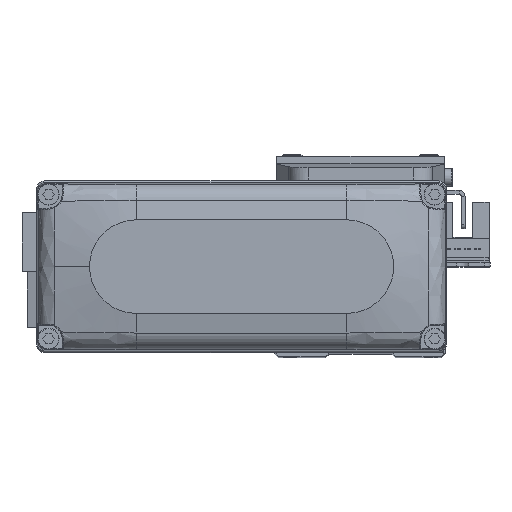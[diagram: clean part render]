
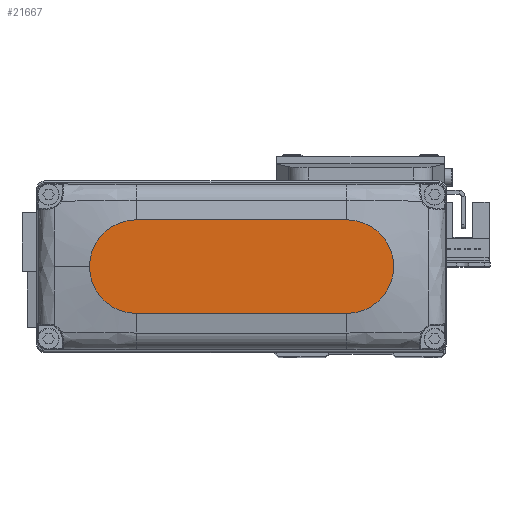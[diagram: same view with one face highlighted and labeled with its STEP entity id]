
A CAD part, top view. The second image highlights one B-rep face of the part: STEP entity #21667.
In plain terms, the highlighted planar face has unit normal (0, 0, 1).
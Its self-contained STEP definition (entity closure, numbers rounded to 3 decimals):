
#1772 = FACE_OUTER_BOUND ( 'NONE', #8573, .T. ) ;
#2860 = DIRECTION ( 'NONE',  ( 0., 0., 1. ) ) ;
#3759 = ORIENTED_EDGE ( 'NONE', *, *, #13889, .T. ) ;
#4431 = CARTESIAN_POINT ( 'NONE',  ( -27., -12., 25. ) ) ;
#4887 = CARTESIAN_POINT ( 'NONE',  ( 27., 0., 25. ) ) ;
#5955 = CIRCLE ( 'NONE', #28147, 12. ) ;
#7559 = DIRECTION ( 'NONE',  ( 1., 0., 0. ) ) ;
#8046 = VERTEX_POINT ( 'NONE', #11319 ) ;
#8188 = CARTESIAN_POINT ( 'NONE',  ( -27., 12., 25. ) ) ;
#8573 = EDGE_LOOP ( 'NONE', ( #33944, #19704, #32825, #3759, #14770 ) ) ;
#10918 = DIRECTION ( 'NONE',  ( 1., 0., 0. ) ) ;
#11319 = CARTESIAN_POINT ( 'NONE',  ( -27., -12., 25. ) ) ;
#12369 = CARTESIAN_POINT ( 'NONE',  ( -27., 12., 25. ) ) ;
#13874 = PLANE ( 'NONE',  #28717 ) ;
#13889 = EDGE_CURVE ( 'NONE', #29252, #17244, #36434, .T. ) ;
#14369 = VERTEX_POINT ( 'NONE', #17847 ) ;
#14770 = ORIENTED_EDGE ( 'NONE', *, *, #25485, .T. ) ;
#14958 = DIRECTION ( 'NONE',  ( 1., 0., 0. ) ) ;
#15638 = EDGE_CURVE ( 'NONE', #8046, #29252, #31625, .T. ) ;
#16516 = DIRECTION ( 'NONE',  ( 1., 0., 0. ) ) ;
#16969 = DIRECTION ( 'NONE',  ( 0., 0., 1. ) ) ;
#17244 = VERTEX_POINT ( 'NONE', #25985 ) ;
#17847 = CARTESIAN_POINT ( 'NONE',  ( 27., 12., 25. ) ) ;
#19317 = AXIS2_PLACEMENT_3D ( 'NONE', #4887, #16969, #29097 ) ;
#19704 = ORIENTED_EDGE ( 'NONE', *, *, #35676, .T. ) ;
#20099 = EDGE_CURVE ( 'NONE', #14369, #30821, #35362, .T. ) ;
#20266 = DIRECTION ( 'NONE',  ( -1., 0., 0. ) ) ;
#21471 = CIRCLE ( 'NONE', #26541, 12. ) ;
#21667 = ADVANCED_FACE ( 'NONE', ( #1772 ), #13874, .T. ) ;
#22653 = CARTESIAN_POINT ( 'NONE',  ( 27., 0., 25. ) ) ;
#25485 = EDGE_CURVE ( 'NONE', #17244, #14369, #21471, .T. ) ;
#25985 = CARTESIAN_POINT ( 'NONE',  ( 39., 0., 25. ) ) ;
#25998 = CARTESIAN_POINT ( 'NONE',  ( 0., 0., 25. ) ) ;
#26541 = AXIS2_PLACEMENT_3D ( 'NONE', #22653, #34738, #7559 ) ;
#26674 = VECTOR ( 'NONE', #16516, 1000. ) ;
#28147 = AXIS2_PLACEMENT_3D ( 'NONE', #30043, #2860, #14958 ) ;
#28717 = AXIS2_PLACEMENT_3D ( 'NONE', #25998, #38089, #10918 ) ;
#29097 = DIRECTION ( 'NONE',  ( 1., 0., 0. ) ) ;
#29252 = VERTEX_POINT ( 'NONE', #38364 ) ;
#30043 = CARTESIAN_POINT ( 'NONE',  ( -27., 0., 25. ) ) ;
#30821 = VERTEX_POINT ( 'NONE', #12369 ) ;
#31625 = LINE ( 'NONE', #4431, #26674 ) ;
#32825 = ORIENTED_EDGE ( 'NONE', *, *, #15638, .T. ) ;
#33944 = ORIENTED_EDGE ( 'NONE', *, *, #20099, .T. ) ;
#34738 = DIRECTION ( 'NONE',  ( 0., 0., 1. ) ) ;
#35362 = LINE ( 'NONE', #8188, #35903 ) ;
#35676 = EDGE_CURVE ( 'NONE', #30821, #8046, #5955, .T. ) ;
#35903 = VECTOR ( 'NONE', #20266, 1000. ) ;
#36434 = CIRCLE ( 'NONE', #19317, 12. ) ;
#38089 = DIRECTION ( 'NONE',  ( 0., 0., 1. ) ) ;
#38364 = CARTESIAN_POINT ( 'NONE',  ( 27., -12., 25. ) ) ;
